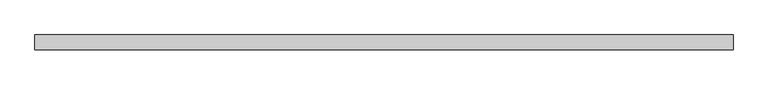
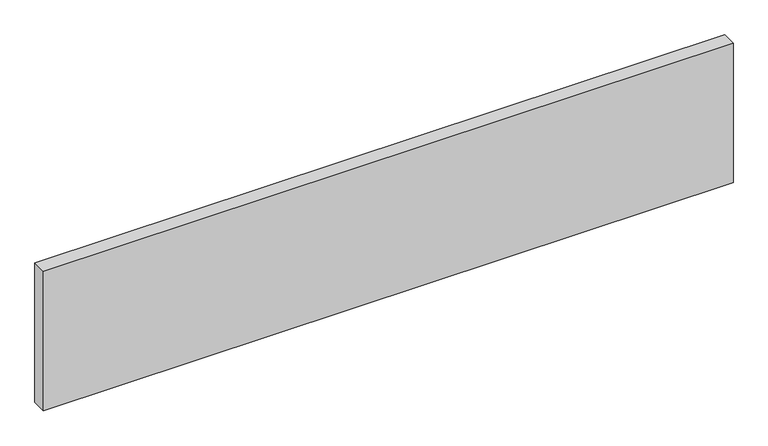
"""IFC4 building model written with IfcOpenShell, lengths in millimetres: plate geometry, Panneau système : Vitre 4cm."""

import ifcopenshell
import ifcopenshell.guid

model = None  # the IFC model being written
_history = None  # IfcOwnerHistory: only IFC2X3 demands one
_inside = {}  # id of a spatial element -> (the spatial element, [elements in it])
_under = {}  # id of a project, library or spatial element -> (it, [spatial elements below it])
_declared = {}  # id of a project -> (the project, [libraries it declares])
_typed = {}  # id of a type object -> (the type object, [elements of that type])
_made_of = {}  # id of a material, layer set ... -> (it, [elements and type objects made of it])


def new_model(schema):
    """Start an empty IFC model of exactly this schema.

    Asked for "IFC4X3", IfcOpenShell would pick the latest addendum, in which some entities
    have other attributes; the version numbers below select the first issue.
    IFC2X3 requires an IfcOwnerHistory on every rooted entity: one is made here for all.
    """
    global model, _history
    if schema == "IFC4X3":
        model = ifcopenshell.file(schema_version=(4, 3, 0, 0))
    else:
        model = ifcopenshell.file(schema=schema)
    _inside.clear()
    _under.clear()
    _declared.clear()
    _typed.clear()
    _made_of.clear()
    _history = None
    if model.schema == "IFC2X3":
        org = make("IfcOrganization", Name="unknown")
        user = make(
            "IfcPersonAndOrganization",
            ThePerson=make("IfcPerson", FamilyName="unknown"),
            TheOrganization=org,
        )
        app = make(
            "IfcApplication",
            ApplicationDeveloper=org,
            Version="unknown",
            ApplicationFullName="unknown",
            ApplicationIdentifier="unknown",
        )
        _history = make(
            "IfcOwnerHistory",
            OwningUser=user,
            OwningApplication=app,
            ChangeAction="ADDED",
            CreationDate=0,
        )
    return model


def make(cls, **values):
    """One entity of the class cls with the attributes given. An attribute that is None is left unset."""
    return model.create_entity(
        cls, **{name: value for name, value in values.items() if value is not None}
    )


def rooted(cls, **values):
    """An entity with a GlobalId (a new one), such as an element, a storey or a relation."""
    return make(cls, GlobalId=ifcopenshell.guid.new(), OwnerHistory=_history, **values)


def si_unit(unit_type, name, prefix=None):
    """IfcSIUnit, for example si_unit("LENGTHUNIT", "METRE", prefix="MILLI")."""
    return make("IfcSIUnit", UnitType=unit_type, Prefix=prefix, Name=name)


def assignment(units):
    """IfcUnitAssignment: the units of a project."""
    return None if units is None else make("IfcUnitAssignment", Units=units)


def point(xyz):
    """IfcCartesianPoint."""
    return None if xyz is None else make("IfcCartesianPoint", Coordinates=xyz)


def direction(xyz):
    """IfcDirection."""
    return None if xyz is None else make("IfcDirection", DirectionRatios=xyz)


def frame(location, z_axis=None, x_axis=None):
    """IfcAxis2Placement3D, a coordinate frame: its origin and axes. An axis left out is left unset."""
    return make(
        "IfcAxis2Placement3D",
        Location=point(location),
        Axis=direction(z_axis),
        RefDirection=direction(x_axis),
    )


def origin():
    """The frame at (0, 0, 0) with its axes left unset."""
    return frame((0.0, 0.0, 0.0))


def origin_with_axes():
    """The frame at (0, 0, 0) with the z axis (0, 0, 1) and the x axis (1, 0, 0) written out."""
    return frame((0.0, 0.0, 0.0), z_axis=(0.0, 0.0, 1.0), x_axis=(1.0, 0.0, 0.0))


def place(relative_to, where):
    """IfcLocalPlacement: puts the frame where relative to a parent placement (None: the world)."""
    return make(
        "IfcLocalPlacement", PlacementRelTo=relative_to, RelativePlacement=where
    )


def context(
    kind, dimensions, precision=None, world=None, true_north=None, identifier=None
):
    """IfcGeometricRepresentationContext, for example the 3D "Model" context."""
    return make(
        "IfcGeometricRepresentationContext",
        ContextIdentifier=identifier,
        ContextType=kind,
        CoordinateSpaceDimension=dimensions,
        Precision=precision,
        WorldCoordinateSystem=world,
        TrueNorth=true_north,
    )


def project(units=None, contexts=None):
    """IfcProject with its units and contexts."""
    return rooted(
        "IfcProject",
        Name="project",
        RepresentationContexts=contexts,
        UnitsInContext=assignment(units),
    )


def spatial(cls, under=None, at=None, **own):
    """A site, building, storey or space (cls), placed at a placement, below another one or the project."""
    s = rooted(cls, ObjectPlacement=at, **own)
    if under is not None:
        _under.setdefault(under.id(), (under, []))[1].append(s)
    return s


def polyline(points):
    """IfcPolyline through the points."""
    return make("IfcPolyline", Points=[point(p) for p in points])


def outline(outer, holes=None, kind="AREA"):
    """IfcArbitraryClosedProfileDef: a profile drawn as a closed curve; with holes, ...WithVoids."""
    if holes is None:
        return make("IfcArbitraryClosedProfileDef", ProfileType=kind, OuterCurve=outer)
    return make(
        "IfcArbitraryProfileDefWithVoids",
        ProfileType=kind,
        OuterCurve=outer,
        InnerCurves=holes,
    )


def extrude(swept, where, along, depth):
    """IfcExtrudedAreaSolid: the profile swept, set in the frame where, extruded along a direction by depth."""
    return make(
        "IfcExtrudedAreaSolid",
        SweptArea=swept,
        Position=where,
        ExtrudedDirection=direction(along),
        Depth=depth,
    )


def shape(context_of_items, identifier, shape_type, items):
    """IfcShapeRepresentation: the items that make up one representation, for example the "Body"."""
    return make(
        "IfcShapeRepresentation",
        ContextOfItems=context_of_items,
        RepresentationIdentifier=identifier,
        RepresentationType=shape_type,
        Items=items,
    )


def source(mapping_origin, context_of_items, identifier, shape_type, items):
    """IfcRepresentationMap: a shape defined once, which mapped items show again and again."""
    return make(
        "IfcRepresentationMap",
        MappingOrigin=mapping_origin,
        MappedRepresentation=shape(context_of_items, identifier, shape_type, items),
    )


def transform(
    local_origin,
    x_axis=None,
    y_axis=None,
    z_axis=None,
    scale=None,
    scale2=None,
    scale3=None,
    uniform=True,
):
    """IfcCartesianTransformationOperator3D, or its non-uniform kind. x_axis, y_axis, z_axis: its Axis1, 2, 3."""
    if uniform:
        return make(
            "IfcCartesianTransformationOperator3D",
            Axis1=direction(x_axis),
            Axis2=direction(y_axis),
            LocalOrigin=point(local_origin),
            Scale=scale,
            Axis3=direction(z_axis),
        )
    return make(
        "IfcCartesianTransformationOperator3DnonUniform",
        Axis1=direction(x_axis),
        Axis2=direction(y_axis),
        LocalOrigin=point(local_origin),
        Scale=scale,
        Axis3=direction(z_axis),
        Scale2=scale2,
        Scale3=scale3,
    )


def mapped(mapping_source, mapping_target):
    """IfcMappedItem: shows the shape of a source again, moved by a transform."""
    return make(
        "IfcMappedItem", MappingSource=mapping_source, MappingTarget=mapping_target
    )


def made_of(thing, what):
    """Note that an element or type object is made of a material, layer set ...; save() writes the relation."""
    if what is not None:
        _made_of.setdefault(what.id(), (what, []))[1].append(thing)
    return thing


def element(
    cls,
    number,
    at=None,
    inside=None,
    cuts=None,
    type_object=None,
    material=None,
    context=None,
    identifier="Body",
    shape_type=None,
    held_by="IfcProductDefinitionShape",
    body=None,
    shapes=None,
    **own,
):
    """One element of the class cls, such as IfcWall. Its Tag is "e" and its number.

    at: its placement. inside: the storey or other place that contains it. cuts: it is an
    opening in that element (IfcRelVoidsElement). A single representation is given by context,
    identifier, shape_type and body (its items); several are given by shapes. held_by: the class
    of the entity that holds the representations. save() writes the other relations.
    """
    e = rooted(cls, Tag="e%d" % number, ObjectPlacement=at, **own)
    if body is not None:
        shapes = [shape(context, identifier, shape_type, body)]
    if shapes is not None:
        e.Representation = make(held_by, Representations=shapes)
    if inside is not None:
        _inside.setdefault(inside.id(), (inside, []))[1].append(e)
    if cuts is not None:
        rooted(
            "IfcRelVoidsElement", RelatingBuildingElement=cuts, RelatedOpeningElement=e
        )
    if type_object is not None:
        _typed.setdefault(type_object.id(), (type_object, []))[1].append(e)
    return made_of(e, material)


def aggregate(whole, parts):
    """IfcRelAggregates: a whole, such as a stair, and the parts it consists of."""
    return rooted("IfcRelAggregates", RelatingObject=whole, RelatedObjects=parts)


def save(model, path):
    """Write the relations noted so far, then the file.

    IfcRelAggregates (storeys below a building ...), IfcRelContainedInSpatialStructure (elements
    in a storey), IfcRelDefinesByType, IfcRelAssociatesMaterial and IfcRelDeclares: one each for
    every whole, place, type object, material and project.
    """
    for whole, parts in _under.values():
        aggregate(whole, parts)
    for where, things in _inside.values():
        rooted(
            "IfcRelContainedInSpatialStructure",
            RelatedElements=things,
            RelatingStructure=where,
        )
    for kind, things in _typed.values():
        rooted("IfcRelDefinesByType", RelatedObjects=things, RelatingType=kind)
    for what, things in _made_of.values():
        rooted("IfcRelAssociatesMaterial", RelatedObjects=things, RelatingMaterial=what)
    for by, libraries in _declared.values():
        rooted("IfcRelDeclares", RelatingContext=by, RelatedDefinitions=libraries)
    model.write(path)


def plate_86eb5cc0(model_context):
    return source(origin(), model_context, "Body", "SweptSolid", [
        extrude(outline(polyline([(934.5, -20.0), (-934.5, -20.0), (-934.5, 20.0), (934.5, 20.0), (934.5, -20.0)])), origin_with_axes(), (0.0, 0.0, 1.0), 400.0),
    ])


if __name__ == "__main__":
    model = new_model("IFC4")
    model_context = context("Model", 3, world=origin())
    ifc_project = project(units=[si_unit("LENGTHUNIT", "METRE", prefix="MILLI")], contexts=[model_context])
    site = spatial("IfcSite", under=ifc_project)
    building = spatial("IfcBuilding", under=site)
    placement = place(None, origin())
    plate_shape = plate_86eb5cc0(model_context)
    element("IfcPlate", 1, ObjectType="Panneau système : Vitre 4cm", at=placement, inside=building, context=model_context, shape_type="MappedRepresentation", body=[
        mapped(plate_shape, transform((0.0, 0.0, 0.0), x_axis=(1.0, 0.0, 0.0), y_axis=(0.0, 1.0, 0.0), z_axis=(0.0, 0.0, 1.0))),
    ])
    save(model, "model.ifc")
